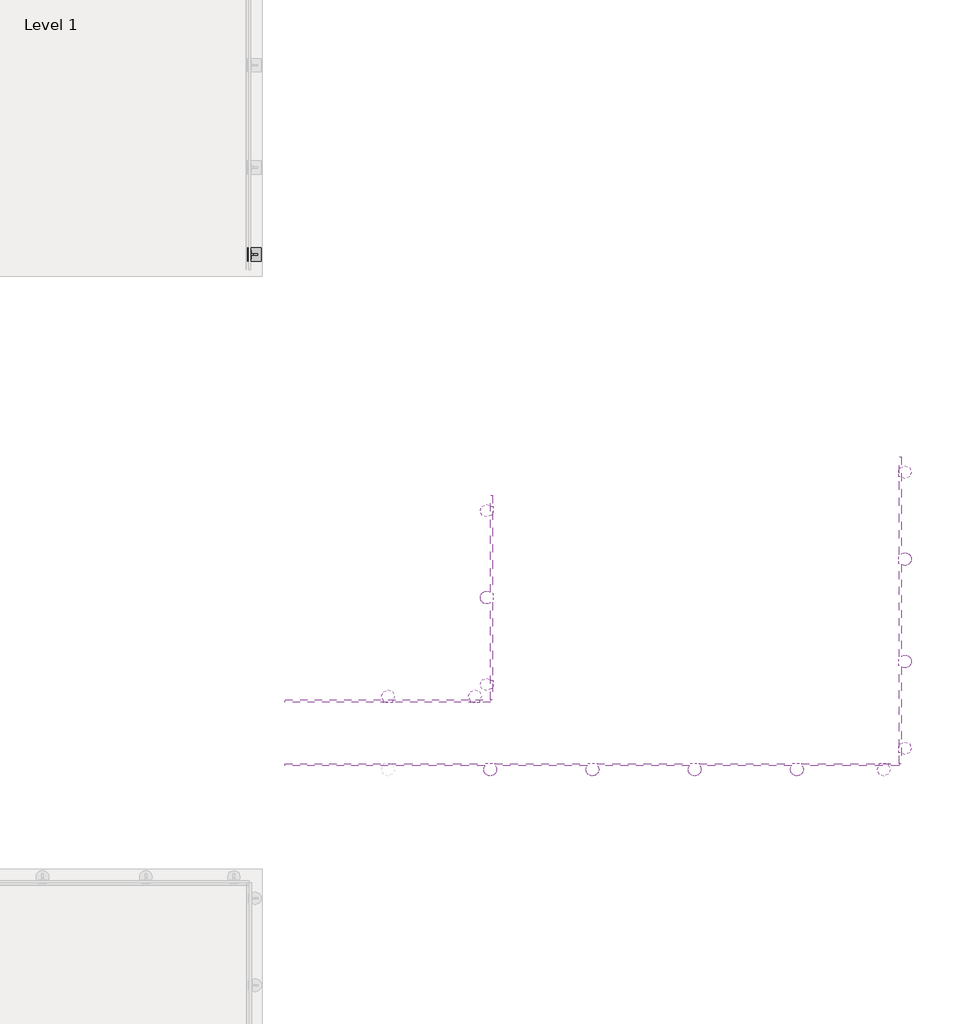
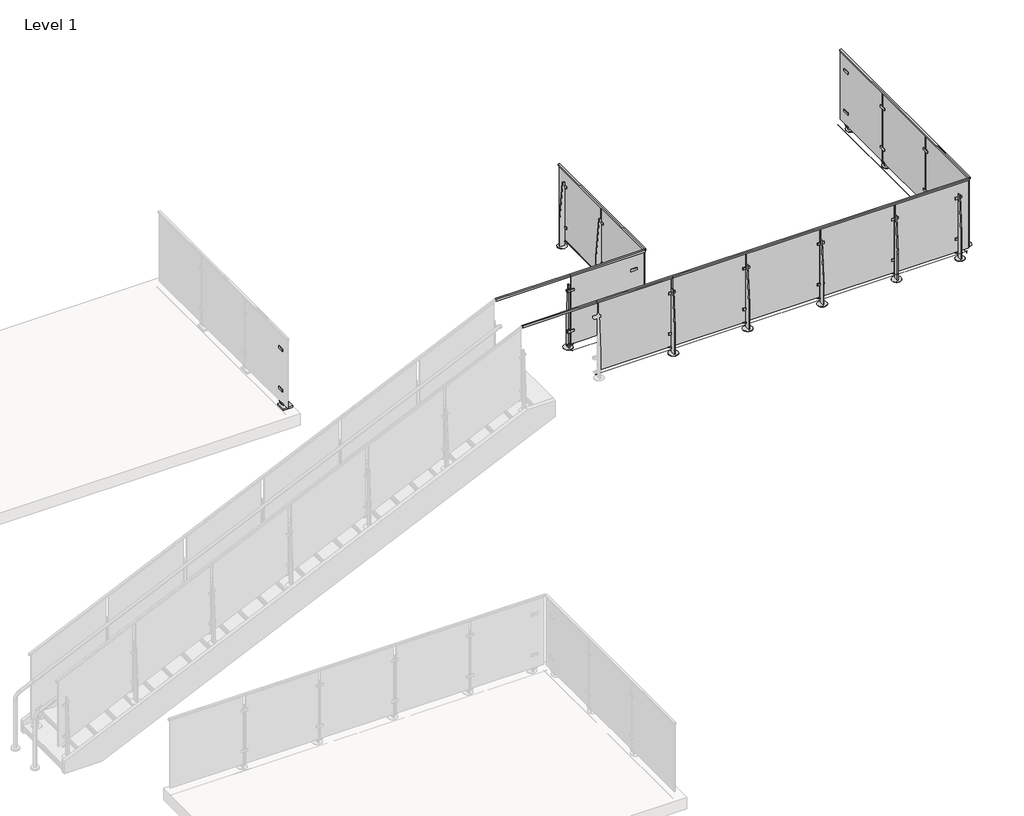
# One storey, part 4 of 37: 8 proxies, 4 railings.
"""IFC4 building model written with IfcOpenShell, lengths in millimetres."""

from ifc_helpers import new_model, si_unit, point, frame, frame_2d, origin, place, context, project, spatial, polyline, circle_curve, trimmed, segment, composite_curve, outline, extrude, faceted_brep, transform, mapped, element, save
from components import baluster_end_post_viva_solo_top_mount_e69dec62, baluster_end_post_viva_solo_top_mount_156321c6, baluster_end_post_viva_solo_top_mount_7846b30d, baluster_end_post_viva_solo_top_mount_67941749

model = new_model("IFC4")

# Units and contexts
model_context = context("Model", 3, world=origin())
ifc_project = project(units=[si_unit("LENGTHUNIT", "METRE", prefix="MILLI")], contexts=[model_context])

# Site, building, storey
site = spatial("IfcSite", under=ifc_project)
building = spatial("IfcBuilding", under=site)
storey = spatial("IfcBuildingStorey", under=building, Name="Level 1", Elevation=0.0)

# Proxies
placement = place(None, origin())
baluster_end_post_viva_solo_top_mount_shape = baluster_end_post_viva_solo_top_mount_e69dec62(model_context)
element("IfcBuildingElementProxy", 1, Name="Baluster-End-Post-VIVA-SOLO-Top Mount : CORED INTO CONCRETE_TOP MOUNT FOLD_STRAIGHT", ObjectType="Baluster-End-Post-VIVA-SOLO-Top Mount : CORED INTO CONCRETE_TOP MOUNT FOLD_STRAIGHT", at=placement, inside=storey, context=model_context, shape_type="MappedRepresentation", body=[
    mapped(baluster_end_post_viva_solo_top_mount_shape, transform((-5355.4809397, -4912.7528686, 3047.492), x_axis=(0.0, -1.0, 0.0), y_axis=(1.0, 0.0, 0.0), z_axis=(0.0, 0.0, 1.0))),
])
element("IfcBuildingElementProxy", 2, Name="Baluster-End-Post-VIVA-SOLO-Top Mount : CORED INTO CONCRETE_TOP MOUNT FOLD_STRAIGHT", ObjectType="Baluster-End-Post-VIVA-SOLO-Top Mount : CORED INTO CONCRETE_TOP MOUNT FOLD_STRAIGHT", at=placement, inside=storey, context=model_context, shape_type="MappedRepresentation", body=[
    mapped(baluster_end_post_viva_solo_top_mount_shape, transform((-1340.2310482, -5522.6703686, 3047.492), x_axis=(1.0, 0.0, 0.0), y_axis=(0.0, 1.0, 0.0), z_axis=(0.0, 0.0, 1.0))),
])
element("IfcBuildingElementProxy", 3, Name="Baluster-End-Post-VIVA-SOLO-Top Mount : CORED INTO CONCRETE_TOP MOUNT FOLD_STRAIGHT", ObjectType="Baluster-End-Post-VIVA-SOLO-Top Mount : CORED INTO CONCRETE_TOP MOUNT FOLD_STRAIGHT", at=placement, inside=storey, context=model_context, shape_type="MappedRepresentation", body=[
    mapped(baluster_end_post_viva_solo_top_mount_shape, transform((-1365.3135482, -2499.7528686, 3047.492), x_axis=(0.0, 1.0, 0.0), y_axis=(-1.0, 0.0, 0.0), z_axis=(0.0, 0.0, 1.0))),
])
baluster_end_post_viva_solo_top_mount_2_shape = baluster_end_post_viva_solo_top_mount_156321c6(model_context)
element("IfcBuildingElementProxy", 4, Name="Baluster-End-Post-VIVA-SOLO-Top Mount : CORED INTO CONCRETE_TOP MOUNT FOLD_STRAIGHT", ObjectType="Baluster-End-Post-VIVA-SOLO-Top Mount : CORED INTO CONCRETE_TOP MOUNT FOLD_STRAIGHT", at=placement, inside=storey, context=model_context, shape_type="MappedRepresentation", body=[
    mapped(baluster_end_post_viva_solo_top_mount_2_shape, transform((-6418.7884397, -4960.0603686, 3047.492), x_axis=(-1.0, 0.0, 0.0), y_axis=(0.0, -1.0, 0.0), z_axis=(0.0, 0.0, 1.0))),
])
baluster_end_post_viva_solo_top_mount_3_shape = baluster_end_post_viva_solo_top_mount_7846b30d(model_context)
element("IfcBuildingElementProxy", 5, Name="Baluster-End-Post-VIVA-SOLO-Top Mount : CORED INTO CONCRETE_TOP MOUNT FOLD_STRAIGHT", ObjectType="Baluster-End-Post-VIVA-SOLO-Top Mount : CORED INTO CONCRETE_TOP MOUNT FOLD_STRAIGHT", at=placement, inside=storey, context=model_context, shape_type="MappedRepresentation", body=[
    mapped(baluster_end_post_viva_solo_top_mount_3_shape, transform((-1365.3135482, -5547.7528686, 3047.492), x_axis=(0.0, 1.0, 0.0), y_axis=(-1.0, 0.0, 0.0), z_axis=(0.0, 0.0, 1.0))),
])
element("IfcBuildingElementProxy", 6, Name="Baluster-End-Post-VIVA-SOLO-Top Mount : CORED INTO CONCRETE_TOP MOUNT FOLD_STRAIGHT", ObjectType="Baluster-End-Post-VIVA-SOLO-Top Mount : CORED INTO CONCRETE_TOP MOUNT FOLD_STRAIGHT", at=placement, inside=storey, context=model_context, shape_type="MappedRepresentation", body=[
    mapped(baluster_end_post_viva_solo_top_mount_3_shape, transform((-5355.4809397, -2880.7528686, 3047.492), x_axis=(0.0, -1.0, 0.0), y_axis=(1.0, 0.0, 0.0), z_axis=(0.0, 0.0, 1.0))),
])
element("IfcBuildingElementProxy", 7, Name="Baluster-End-Post-VIVA-SOLO-Top Mount : CORED INTO CONCRETE_TOP MOUNT FOLD_STRAIGHT", ObjectType="Baluster-End-Post-VIVA-SOLO-Top Mount : CORED INTO CONCRETE_TOP MOUNT FOLD_STRAIGHT", at=placement, inside=storey, context=model_context, shape_type="MappedRepresentation", body=[
    mapped(baluster_end_post_viva_solo_top_mount_3_shape, transform((-5402.7884397, -4960.0603686, 3047.492), x_axis=(-1.0, 0.0, 0.0), y_axis=(0.0, -1.0, 0.0), z_axis=(0.0, 0.0, 1.0))),
])
baluster_end_post_viva_solo_top_mount_4_shape = baluster_end_post_viva_solo_top_mount_67941749(model_context)
element("IfcBuildingElementProxy", 8, Name="Baluster-End-Post-VIVA-SOLO-Top Mount : ANCHORED TO CONCRETE_TOP MOUNT FOLD_STRAIGHT", ObjectType="Baluster-End-Post-VIVA-SOLO-Top Mount : ANCHORED TO CONCRETE_TOP MOUNT FOLD_STRAIGHT", at=placement, inside=storey, context=model_context, shape_type="MappedRepresentation", body=[
    mapped(baluster_end_post_viva_solo_top_mount_4_shape, transform((-7831.634081, -641.4845865, -0.508), x_axis=(0.0, 1.0, 0.0), y_axis=(-1.0, 0.0, 0.0), z_axis=(0.0, 0.0, 1.0))),
])

# Railings
element("IfcRailing", 9, ObjectType="VIVA-SOLO-Glass-Core Mount-Straight", at=placement, inside=storey, context=model_context, shape_type="SolidModel", body=[
    extrude(outline(composite_curve([segment(trimmed(circle_curve(frame_2d((-5522.6703686, 3047.746)), 0.254), [point((-5522.9243686, 3047.746))], [point((-5522.4163686, 3047.746))], False, "CARTESIAN"), True, "CONTINUOUS"), segment(trimmed(circle_curve(frame_2d((-5522.6703686, 3047.746)), 0.254), [point((-5522.4163686, 3047.746))], [point((-5522.9243686, 3047.746))], False, "CARTESIAN"), True, "CONTINUOUS")], self_intersect=False)), frame((-6420.2310482, 0.0, 0.0), z_axis=(1.0, 0.0, 0.0), x_axis=(0.0, 1.0, 0.0)), (0.0, 0.0, 1.0), 5080.0),
    extrude(outline(composite_curve([segment(trimmed(circle_curve(frame_2d((-5522.6703686, 3047.746)), 0.254), [point((-5522.9243686, 3047.746))], [point((-5522.4163686, 3047.746))], False, "CARTESIAN"), True, "CONTINUOUS"), segment(trimmed(circle_curve(frame_2d((-5522.6703686, 3047.746)), 0.254), [point((-5522.4163686, 3047.746))], [point((-5522.9243686, 3047.746))], False, "CARTESIAN"), True, "CONTINUOUS")], self_intersect=False)), frame((-6420.2310482, 0.0, 0.0), z_axis=(1.0, 0.0, 0.0), x_axis=(0.0, 1.0, 0.0)), (0.0, 0.0, 1.0), 5080.0),
    faceted_brep([(-1340.2310482, -5569.9778686, 4127.5), (-1340.2310482, -5569.9778686, 4102.1), (-1340.2310482, -5565.2153686, 4102.1), (-1340.2310482, -5565.2153686, 4122.7375), (-1340.2310482, -5552.5153686, 4122.7375), (-1340.2310482, -5552.5153686, 4102.1), (-1340.2310482, -5547.7528686, 4102.1), (-1340.2310482, -5547.7528686, 4127.5), (-6420.2310482, -5547.7528686, 4127.5), (-6420.2310482, -5569.9778686, 4127.5), (-6420.2310482, -5547.7528686, 4102.1), (-6420.2310482, -5552.5153686, 4102.1), (-6420.2310482, -5552.5153686, 4122.7375), (-6420.2310482, -5565.2153686, 4122.7375), (-6420.2310482, -5565.2153686, 4102.1), (-6420.2310482, -5569.9778686, 4102.1), (-7440.053319, -5569.9778686, 4127.5), (-7440.053319, -5547.7528686, 4127.5), (-7440.053319, -5547.7528686, 4102.1), (-7440.053319, -5552.5153686, 4102.1), (-7440.053319, -5552.5153686, 4122.7375), (-7440.053319, -5565.2153686, 4122.7375), (-7440.053319, -5565.2153686, 4102.1), (-7440.053319, -5569.9778686, 4102.1)], [[[0, 1, 2, 3, 4, 5, 6, 7]], [[8, 9, 0, 7]], [[10, 8, 7, 6]], [[11, 10, 6, 5]], [[12, 11, 5, 4]], [[13, 12, 4, 3]], [[14, 13, 3, 2]], [[15, 14, 2, 1]], [[9, 15, 1, 0]], [[16, 17, 18, 19, 20, 21, 22, 23]], [[17, 16, 9, 8]], [[18, 17, 8, 10]], [[19, 18, 10, 11]], [[20, 19, 11, 12]], [[21, 20, 12, 13]], [[22, 21, 13, 14]], [[23, 22, 14, 15]], [[16, 23, 15, 9]]]),
    extrude(outline(polyline([(-2343.1480016, -5552.5153686), (-1352.5480016, -5552.5153686), (-1352.5480016, -5565.2153686), (-2343.1480016, -5565.2153686), (-2343.1480016, -5552.5153686)])), frame((0.0, 0.0, 3124.2), z_axis=(0.0, 0.0, 1.0), x_axis=(1.0, 0.0, 0.0)), (0.0, 0.0, 1.0), 998.474),
    extrude(outline(polyline([(-5574.7403686, 3962.4), (-5574.7403686, 3048.0), (-5638.2403686, 3048.0), (-5638.2403686, 3429.0), (-5600.1403686, 3962.4), (-5574.7403686, 3962.4)])), frame((-2362.5810482, 0.0, 0.0), z_axis=(1.0, 0.0, 0.0), x_axis=(0.0, 1.0, 0.0)), (0.0, 0.0, 1.0), 12.7),
    extrude(outline(composite_curve([segment(trimmed(circle_curve(frame_2d((-2356.2310482, -5606.4903686)), 63.5), [point((-2356.2310482, -5669.9903686))], [point((-2356.2310482, -5542.9903686))], False, "CARTESIAN"), True, "CONTINUOUS"), segment(trimmed(circle_curve(frame_2d((-2356.2310482, -5606.4903686)), 63.5), [point((-2356.2310482, -5542.9903686))], [point((-2356.2310482, -5669.9903686))], False, "CARTESIAN"), True, "CONTINUOUS")], self_intersect=False)), frame((0.0, 0.0, 3048.0), z_axis=(0.0, 0.0, 1.0), x_axis=(1.0, 0.0, 0.0)), (0.0, 0.0, 1.0), 3.175),
    extrude(outline(polyline([(-2400.6810482, -5565.2153686), (-2311.7810482, -5565.2153686), (-2311.7810482, -5574.7403686), (-2400.6810482, -5574.7403686), (-2400.6810482, -5565.2153686)])), frame((0.0, 0.0, 3299.9910694), z_axis=(0.0, 0.0, 1.0), x_axis=(1.0, 0.0, 0.0)), (0.0, 0.0, 1.0), 31.75),
    extrude(outline(polyline([(-2400.6810482, -5565.2153686), (-2311.7810482, -5565.2153686), (-2311.7810482, -5574.7403686), (-2400.6810482, -5574.7403686), (-2400.6810482, -5565.2153686)])), frame((0.0, 0.0, 3886.2992187), z_axis=(0.0, 0.0, 1.0), x_axis=(1.0, 0.0, 0.0)), (0.0, 0.0, 1.0), 31.75),
    extrude(outline(polyline([(-2400.6810482, -5542.9903686), (-2311.7810482, -5542.9903686), (-2311.7810482, -5552.5153686), (-2400.6810482, -5552.5153686), (-2400.6810482, -5542.9903686)])), frame((0.0, 0.0, 3299.9910694), z_axis=(0.0, 0.0, 1.0), x_axis=(1.0, 0.0, 0.0)), (0.0, 0.0, 1.0), 31.75),
    extrude(outline(polyline([(-2400.6810482, -5542.9903686), (-2311.7810482, -5542.9903686), (-2311.7810482, -5552.5153686), (-2400.6810482, -5552.5153686), (-2400.6810482, -5542.9903686)])), frame((0.0, 0.0, 3886.2992187), z_axis=(0.0, 0.0, 1.0), x_axis=(1.0, 0.0, 0.0)), (0.0, 0.0, 1.0), 31.75),
    extrude(outline(polyline([(3124.2, -2311.7810482), (3124.2, -2400.6810482), (3117.85, -2400.6810482), (3095.9353513, -2356.2310482), (3117.85, -2311.7810482), (3124.2, -2311.7810482)])), frame((0.0, -5565.2153686, 0.0), z_axis=(0.0, 1.0, 0.0), x_axis=(0.0, 0.0, 1.0)), (0.0, 0.0, 1.0), 12.7),
    extrude(outline(composite_curve([segment(trimmed(circle_curve(frame_2d((3315.8660694, -2356.2310482)), 6.35), [point((3315.8660694, -2349.8810482))], [point((3315.8660694, -2362.5810482))], False, "CARTESIAN"), True, "CONTINUOUS"), segment(trimmed(circle_curve(frame_2d((3315.8660694, -2356.2310482)), 6.35), [point((3315.8660694, -2362.5810482))], [point((3315.8660694, -2349.8810482))], False, "CARTESIAN"), True, "CONTINUOUS")], self_intersect=False)), frame((0.0, -5565.2153686, 0.0), z_axis=(0.0, 1.0, 0.0), x_axis=(0.0, 0.0, 1.0)), (0.0, 0.0, 1.0), 12.7),
    extrude(outline(composite_curve([segment(trimmed(circle_curve(frame_2d((3902.1742187, -2356.2310482)), 6.35), [point((3902.1742187, -2349.8810482))], [point((3902.1742187, -2362.5810482))], False, "CARTESIAN"), True, "CONTINUOUS"), segment(trimmed(circle_curve(frame_2d((3902.1742187, -2356.2310482)), 6.35), [point((3902.1742187, -2362.5810482))], [point((3902.1742187, -2349.8810482))], False, "CARTESIAN"), True, "CONTINUOUS")], self_intersect=False)), frame((0.0, -5565.2153686, 0.0), z_axis=(0.0, 1.0, 0.0), x_axis=(0.0, 0.0, 1.0)), (0.0, 0.0, 1.0), 12.7),
    extrude(outline(composite_curve([segment(trimmed(circle_curve(frame_2d((3108.325, -2356.2310482)), 11.1125), [point((3108.325, -2345.1185482))], [point((3108.325, -2367.3435482))], False, "CARTESIAN"), True, "CONTINUOUS"), segment(trimmed(circle_curve(frame_2d((3108.325, -2356.2310482)), 11.1125), [point((3108.325, -2367.3435482))], [point((3108.325, -2345.1185482))], False, "CARTESIAN"), True, "CONTINUOUS")], self_intersect=False)), frame((0.0, -5574.7403686, 0.0), z_axis=(0.0, 1.0, 0.0), x_axis=(0.0, 0.0, 1.0)), (0.0, 0.0, 1.0), 25.4),
    extrude(outline(polyline([(-3359.1480016, -5552.5153686), (-2368.5480016, -5552.5153686), (-2368.5480016, -5565.2153686), (-3359.1480016, -5565.2153686), (-3359.1480016, -5552.5153686)])), frame((0.0, 0.0, 3124.2), z_axis=(0.0, 0.0, 1.0), x_axis=(1.0, 0.0, 0.0)), (0.0, 0.0, 1.0), 998.474),
    extrude(outline(polyline([(-5574.7403686, 3962.4), (-5574.7403686, 3048.0), (-5638.2403686, 3048.0), (-5638.2403686, 3429.0), (-5600.1403686, 3962.4), (-5574.7403686, 3962.4)])), frame((-3378.5810482, 0.0, 0.0), z_axis=(1.0, 0.0, 0.0), x_axis=(0.0, 1.0, 0.0)), (0.0, 0.0, 1.0), 12.7),
    extrude(outline(composite_curve([segment(trimmed(circle_curve(frame_2d((-3372.2310482, -5606.4903686)), 63.5), [point((-3372.2310482, -5669.9903686))], [point((-3372.2310482, -5542.9903686))], False, "CARTESIAN"), True, "CONTINUOUS"), segment(trimmed(circle_curve(frame_2d((-3372.2310482, -5606.4903686)), 63.5), [point((-3372.2310482, -5542.9903686))], [point((-3372.2310482, -5669.9903686))], False, "CARTESIAN"), True, "CONTINUOUS")], self_intersect=False)), frame((0.0, 0.0, 3048.0), z_axis=(0.0, 0.0, 1.0), x_axis=(1.0, 0.0, 0.0)), (0.0, 0.0, 1.0), 3.175),
    extrude(outline(polyline([(-3416.6810482, -5565.2153686), (-3327.7810482, -5565.2153686), (-3327.7810482, -5574.7403686), (-3416.6810482, -5574.7403686), (-3416.6810482, -5565.2153686)])), frame((0.0, 0.0, 3299.9910694), z_axis=(0.0, 0.0, 1.0), x_axis=(1.0, 0.0, 0.0)), (0.0, 0.0, 1.0), 31.75),
    extrude(outline(polyline([(-3416.6810482, -5565.2153686), (-3327.7810482, -5565.2153686), (-3327.7810482, -5574.7403686), (-3416.6810482, -5574.7403686), (-3416.6810482, -5565.2153686)])), frame((0.0, 0.0, 3886.2992187), z_axis=(0.0, 0.0, 1.0), x_axis=(1.0, 0.0, 0.0)), (0.0, 0.0, 1.0), 31.75),
    extrude(outline(polyline([(-3416.6810482, -5542.9903686), (-3327.7810482, -5542.9903686), (-3327.7810482, -5552.5153686), (-3416.6810482, -5552.5153686), (-3416.6810482, -5542.9903686)])), frame((0.0, 0.0, 3299.9910694), z_axis=(0.0, 0.0, 1.0), x_axis=(1.0, 0.0, 0.0)), (0.0, 0.0, 1.0), 31.75),
    extrude(outline(polyline([(-3416.6810482, -5542.9903686), (-3327.7810482, -5542.9903686), (-3327.7810482, -5552.5153686), (-3416.6810482, -5552.5153686), (-3416.6810482, -5542.9903686)])), frame((0.0, 0.0, 3886.2992187), z_axis=(0.0, 0.0, 1.0), x_axis=(1.0, 0.0, 0.0)), (0.0, 0.0, 1.0), 31.75),
    extrude(outline(polyline([(3124.2, -3327.7810482), (3124.2, -3416.6810482), (3117.85, -3416.6810482), (3095.9353513, -3372.2310482), (3117.85, -3327.7810482), (3124.2, -3327.7810482)])), frame((0.0, -5565.2153686, 0.0), z_axis=(0.0, 1.0, 0.0), x_axis=(0.0, 0.0, 1.0)), (0.0, 0.0, 1.0), 12.7),
    extrude(outline(composite_curve([segment(trimmed(circle_curve(frame_2d((3315.8660694, -3372.2310482)), 6.35), [point((3315.8660694, -3365.8810482))], [point((3315.8660694, -3378.5810482))], False, "CARTESIAN"), True, "CONTINUOUS"), segment(trimmed(circle_curve(frame_2d((3315.8660694, -3372.2310482)), 6.35), [point((3315.8660694, -3378.5810482))], [point((3315.8660694, -3365.8810482))], False, "CARTESIAN"), True, "CONTINUOUS")], self_intersect=False)), frame((0.0, -5565.2153686, 0.0), z_axis=(0.0, 1.0, 0.0), x_axis=(0.0, 0.0, 1.0)), (0.0, 0.0, 1.0), 12.7),
    extrude(outline(composite_curve([segment(trimmed(circle_curve(frame_2d((3902.1742187, -3372.2310482)), 6.35), [point((3902.1742187, -3365.8810482))], [point((3902.1742187, -3378.5810482))], False, "CARTESIAN"), True, "CONTINUOUS"), segment(trimmed(circle_curve(frame_2d((3902.1742187, -3372.2310482)), 6.35), [point((3902.1742187, -3378.5810482))], [point((3902.1742187, -3365.8810482))], False, "CARTESIAN"), True, "CONTINUOUS")], self_intersect=False)), frame((0.0, -5565.2153686, 0.0), z_axis=(0.0, 1.0, 0.0), x_axis=(0.0, 0.0, 1.0)), (0.0, 0.0, 1.0), 12.7),
    extrude(outline(composite_curve([segment(trimmed(circle_curve(frame_2d((3108.325, -3372.2310482)), 11.1125), [point((3108.325, -3361.1185482))], [point((3108.325, -3383.3435482))], False, "CARTESIAN"), True, "CONTINUOUS"), segment(trimmed(circle_curve(frame_2d((3108.325, -3372.2310482)), 11.1125), [point((3108.325, -3383.3435482))], [point((3108.325, -3361.1185482))], False, "CARTESIAN"), True, "CONTINUOUS")], self_intersect=False)), frame((0.0, -5574.7403686, 0.0), z_axis=(0.0, 1.0, 0.0), x_axis=(0.0, 0.0, 1.0)), (0.0, 0.0, 1.0), 25.4),
    extrude(outline(polyline([(-4375.1480016, -5552.5153686), (-3384.5480016, -5552.5153686), (-3384.5480016, -5565.2153686), (-4375.1480016, -5565.2153686), (-4375.1480016, -5552.5153686)])), frame((0.0, 0.0, 3124.2), z_axis=(0.0, 0.0, 1.0), x_axis=(1.0, 0.0, 0.0)), (0.0, 0.0, 1.0), 998.474),
    extrude(outline(polyline([(-5574.7403686, 3962.4), (-5574.7403686, 3048.0), (-5638.2403686, 3048.0), (-5638.2403686, 3429.0), (-5600.1403686, 3962.4), (-5574.7403686, 3962.4)])), frame((-4394.5810482, 0.0, 0.0), z_axis=(1.0, 0.0, 0.0), x_axis=(0.0, 1.0, 0.0)), (0.0, 0.0, 1.0), 12.7),
    extrude(outline(composite_curve([segment(trimmed(circle_curve(frame_2d((-4388.2310482, -5606.4903686)), 63.5), [point((-4388.2310482, -5669.9903686))], [point((-4388.2310482, -5542.9903686))], False, "CARTESIAN"), True, "CONTINUOUS"), segment(trimmed(circle_curve(frame_2d((-4388.2310482, -5606.4903686)), 63.5), [point((-4388.2310482, -5542.9903686))], [point((-4388.2310482, -5669.9903686))], False, "CARTESIAN"), True, "CONTINUOUS")], self_intersect=False)), frame((0.0, 0.0, 3048.0), z_axis=(0.0, 0.0, 1.0), x_axis=(1.0, 0.0, 0.0)), (0.0, 0.0, 1.0), 3.175),
    extrude(outline(polyline([(-4432.6810482, -5565.2153686), (-4343.7810482, -5565.2153686), (-4343.7810482, -5574.7403686), (-4432.6810482, -5574.7403686), (-4432.6810482, -5565.2153686)])), frame((0.0, 0.0, 3299.9910694), z_axis=(0.0, 0.0, 1.0), x_axis=(1.0, 0.0, 0.0)), (0.0, 0.0, 1.0), 31.75),
    extrude(outline(polyline([(-4432.6810482, -5565.2153686), (-4343.7810482, -5565.2153686), (-4343.7810482, -5574.7403686), (-4432.6810482, -5574.7403686), (-4432.6810482, -5565.2153686)])), frame((0.0, 0.0, 3886.2992187), z_axis=(0.0, 0.0, 1.0), x_axis=(1.0, 0.0, 0.0)), (0.0, 0.0, 1.0), 31.75),
    extrude(outline(polyline([(-4432.6810482, -5542.9903686), (-4343.7810482, -5542.9903686), (-4343.7810482, -5552.5153686), (-4432.6810482, -5552.5153686), (-4432.6810482, -5542.9903686)])), frame((0.0, 0.0, 3299.9910694), z_axis=(0.0, 0.0, 1.0), x_axis=(1.0, 0.0, 0.0)), (0.0, 0.0, 1.0), 31.75),
    extrude(outline(polyline([(-4432.6810482, -5542.9903686), (-4343.7810482, -5542.9903686), (-4343.7810482, -5552.5153686), (-4432.6810482, -5552.5153686), (-4432.6810482, -5542.9903686)])), frame((0.0, 0.0, 3886.2992187), z_axis=(0.0, 0.0, 1.0), x_axis=(1.0, 0.0, 0.0)), (0.0, 0.0, 1.0), 31.75),
    extrude(outline(polyline([(3124.2, -4343.7810482), (3124.2, -4432.6810482), (3117.85, -4432.6810482), (3095.9353513, -4388.2310482), (3117.85, -4343.7810482), (3124.2, -4343.7810482)])), frame((0.0, -5565.2153686, 0.0), z_axis=(0.0, 1.0, 0.0), x_axis=(0.0, 0.0, 1.0)), (0.0, 0.0, 1.0), 12.7),
    extrude(outline(composite_curve([segment(trimmed(circle_curve(frame_2d((3315.8660694, -4388.2310482)), 6.35), [point((3315.8660694, -4381.8810482))], [point((3315.8660694, -4394.5810482))], False, "CARTESIAN"), True, "CONTINUOUS"), segment(trimmed(circle_curve(frame_2d((3315.8660694, -4388.2310482)), 6.35), [point((3315.8660694, -4394.5810482))], [point((3315.8660694, -4381.8810482))], False, "CARTESIAN"), True, "CONTINUOUS")], self_intersect=False)), frame((0.0, -5565.2153686, 0.0), z_axis=(0.0, 1.0, 0.0), x_axis=(0.0, 0.0, 1.0)), (0.0, 0.0, 1.0), 12.7),
    extrude(outline(composite_curve([segment(trimmed(circle_curve(frame_2d((3902.1742187, -4388.2310482)), 6.35), [point((3902.1742187, -4381.8810482))], [point((3902.1742187, -4394.5810482))], False, "CARTESIAN"), True, "CONTINUOUS"), segment(trimmed(circle_curve(frame_2d((3902.1742187, -4388.2310482)), 6.35), [point((3902.1742187, -4394.5810482))], [point((3902.1742187, -4381.8810482))], False, "CARTESIAN"), True, "CONTINUOUS")], self_intersect=False)), frame((0.0, -5565.2153686, 0.0), z_axis=(0.0, 1.0, 0.0), x_axis=(0.0, 0.0, 1.0)), (0.0, 0.0, 1.0), 12.7),
    extrude(outline(composite_curve([segment(trimmed(circle_curve(frame_2d((3108.325, -4388.2310482)), 11.1125), [point((3108.325, -4377.1185482))], [point((3108.325, -4399.3435482))], False, "CARTESIAN"), True, "CONTINUOUS"), segment(trimmed(circle_curve(frame_2d((3108.325, -4388.2310482)), 11.1125), [point((3108.325, -4399.3435482))], [point((3108.325, -4377.1185482))], False, "CARTESIAN"), True, "CONTINUOUS")], self_intersect=False)), frame((0.0, -5574.7403686, 0.0), z_axis=(0.0, 1.0, 0.0), x_axis=(0.0, 0.0, 1.0)), (0.0, 0.0, 1.0), 25.4),
    extrude(outline(polyline([(-5391.1480016, -5552.5153686), (-4400.5480016, -5552.5153686), (-4400.5480016, -5565.2153686), (-5391.1480016, -5565.2153686), (-5391.1480016, -5552.5153686)])), frame((0.0, 0.0, 3124.2), z_axis=(0.0, 0.0, 1.0), x_axis=(1.0, 0.0, 0.0)), (0.0, 0.0, 1.0), 998.474),
    extrude(outline(polyline([(-5574.7403686, 3962.4), (-5574.7403686, 3048.0), (-5638.2403686, 3048.0), (-5638.2403686, 3429.0), (-5600.1403686, 3962.4), (-5574.7403686, 3962.4)])), frame((-5410.5810482, 0.0, 0.0), z_axis=(1.0, 0.0, 0.0), x_axis=(0.0, 1.0, 0.0)), (0.0, 0.0, 1.0), 12.7),
    extrude(outline(composite_curve([segment(trimmed(circle_curve(frame_2d((-5404.2310482, -5606.4903686)), 63.5), [point((-5404.2310482, -5669.9903686))], [point((-5404.2310482, -5542.9903686))], False, "CARTESIAN"), True, "CONTINUOUS"), segment(trimmed(circle_curve(frame_2d((-5404.2310482, -5606.4903686)), 63.5), [point((-5404.2310482, -5542.9903686))], [point((-5404.2310482, -5669.9903686))], False, "CARTESIAN"), True, "CONTINUOUS")], self_intersect=False)), frame((0.0, 0.0, 3048.0), z_axis=(0.0, 0.0, 1.0), x_axis=(1.0, 0.0, 0.0)), (0.0, 0.0, 1.0), 3.175),
    extrude(outline(polyline([(-5448.6810482, -5565.2153686), (-5359.7810482, -5565.2153686), (-5359.7810482, -5574.7403686), (-5448.6810482, -5574.7403686), (-5448.6810482, -5565.2153686)])), frame((0.0, 0.0, 3299.9910694), z_axis=(0.0, 0.0, 1.0), x_axis=(1.0, 0.0, 0.0)), (0.0, 0.0, 1.0), 31.75),
    extrude(outline(polyline([(-5448.6810482, -5565.2153686), (-5359.7810482, -5565.2153686), (-5359.7810482, -5574.7403686), (-5448.6810482, -5574.7403686), (-5448.6810482, -5565.2153686)])), frame((0.0, 0.0, 3886.2992187), z_axis=(0.0, 0.0, 1.0), x_axis=(1.0, 0.0, 0.0)), (0.0, 0.0, 1.0), 31.75),
    extrude(outline(polyline([(-5448.6810482, -5542.9903686), (-5359.7810482, -5542.9903686), (-5359.7810482, -5552.5153686), (-5448.6810482, -5552.5153686), (-5448.6810482, -5542.9903686)])), frame((0.0, 0.0, 3299.9910694), z_axis=(0.0, 0.0, 1.0), x_axis=(1.0, 0.0, 0.0)), (0.0, 0.0, 1.0), 31.75),
    extrude(outline(polyline([(-5448.6810482, -5542.9903686), (-5359.7810482, -5542.9903686), (-5359.7810482, -5552.5153686), (-5448.6810482, -5552.5153686), (-5448.6810482, -5542.9903686)])), frame((0.0, 0.0, 3886.2992187), z_axis=(0.0, 0.0, 1.0), x_axis=(1.0, 0.0, 0.0)), (0.0, 0.0, 1.0), 31.75),
    extrude(outline(polyline([(3124.2, -5359.7810482), (3124.2, -5448.6810482), (3117.85, -5448.6810482), (3095.9353513, -5404.2310482), (3117.85, -5359.7810482), (3124.2, -5359.7810482)])), frame((0.0, -5565.2153686, 0.0), z_axis=(0.0, 1.0, 0.0), x_axis=(0.0, 0.0, 1.0)), (0.0, 0.0, 1.0), 12.7),
    extrude(outline(composite_curve([segment(trimmed(circle_curve(frame_2d((3315.8660694, -5404.2310482)), 6.35), [point((3315.8660694, -5397.8810482))], [point((3315.8660694, -5410.5810482))], False, "CARTESIAN"), True, "CONTINUOUS"), segment(trimmed(circle_curve(frame_2d((3315.8660694, -5404.2310482)), 6.35), [point((3315.8660694, -5410.5810482))], [point((3315.8660694, -5397.8810482))], False, "CARTESIAN"), True, "CONTINUOUS")], self_intersect=False)), frame((0.0, -5565.2153686, 0.0), z_axis=(0.0, 1.0, 0.0), x_axis=(0.0, 0.0, 1.0)), (0.0, 0.0, 1.0), 12.7),
    extrude(outline(composite_curve([segment(trimmed(circle_curve(frame_2d((3902.1742187, -5404.2310482)), 6.35), [point((3902.1742187, -5397.8810482))], [point((3902.1742187, -5410.5810482))], False, "CARTESIAN"), True, "CONTINUOUS"), segment(trimmed(circle_curve(frame_2d((3902.1742187, -5404.2310482)), 6.35), [point((3902.1742187, -5410.5810482))], [point((3902.1742187, -5397.8810482))], False, "CARTESIAN"), True, "CONTINUOUS")], self_intersect=False)), frame((0.0, -5565.2153686, 0.0), z_axis=(0.0, 1.0, 0.0), x_axis=(0.0, 0.0, 1.0)), (0.0, 0.0, 1.0), 12.7),
    extrude(outline(composite_curve([segment(trimmed(circle_curve(frame_2d((3108.325, -5404.2310482)), 11.1125), [point((3108.325, -5393.1185482))], [point((3108.325, -5415.3435482))], False, "CARTESIAN"), True, "CONTINUOUS"), segment(trimmed(circle_curve(frame_2d((3108.325, -5404.2310482)), 11.1125), [point((3108.325, -5415.3435482))], [point((3108.325, -5393.1185482))], False, "CARTESIAN"), True, "CONTINUOUS")], self_intersect=False)), frame((0.0, -5574.7403686, 0.0), z_axis=(0.0, 1.0, 0.0), x_axis=(0.0, 0.0, 1.0)), (0.0, 0.0, 1.0), 25.4),
    extrude(outline(polyline([(-6407.1480016, -5552.5153686), (-5416.5480016, -5552.5153686), (-5416.5480016, -5565.2153686), (-6407.1480016, -5565.2153686), (-6407.1480016, -5552.5153686)])), frame((0.0, 0.0, 3124.2), z_axis=(0.0, 0.0, 1.0), x_axis=(1.0, 0.0, 0.0)), (0.0, 0.0, 1.0), 998.474),
])
element("IfcRailing", 10, ObjectType="VIVA-SOLO-Glass-Core Mount-Straight", at=placement, inside=storey, context=model_context, shape_type="SweptSolid", body=[
    extrude(outline(composite_curve([segment(trimmed(circle_curve(frame_2d((3047.746, -1365.3135482)), 0.254), [point((3047.746, -1365.0595482))], [point((3047.746, -1365.5675482))], False, "CARTESIAN"), True, "CONTINUOUS"), segment(trimmed(circle_curve(frame_2d((3047.746, -1365.3135482)), 0.254), [point((3047.746, -1365.5675482))], [point((3047.746, -1365.0595482))], False, "CARTESIAN"), True, "CONTINUOUS")], self_intersect=False)), frame((0.0, -5547.7528686, 0.0), z_axis=(0.0, 1.0, 0.0), x_axis=(0.0, 0.0, 1.0)), (0.0, 0.0, 1.0), 3048.0),
    extrude(outline(composite_curve([segment(trimmed(circle_curve(frame_2d((3047.746, -1365.3135482)), 0.254), [point((3047.746, -1365.0595482))], [point((3047.746, -1365.5675482))], False, "CARTESIAN"), True, "CONTINUOUS"), segment(trimmed(circle_curve(frame_2d((3047.746, -1365.3135482)), 0.254), [point((3047.746, -1365.5675482))], [point((3047.746, -1365.0595482))], False, "CARTESIAN"), True, "CONTINUOUS")], self_intersect=False)), frame((0.0, -5547.7528686, 0.0), z_axis=(0.0, 1.0, 0.0), x_axis=(0.0, 0.0, 1.0)), (0.0, 0.0, 1.0), 3048.0),
    extrude(outline(polyline([(4127.5, -1318.0060482), (4127.5, -1340.2310482), (4102.1, -1340.2310482), (4102.1, -1335.4685482), (4122.7375, -1335.4685482), (4122.7375, -1322.7685482), (4102.1, -1322.7685482), (4102.1, -1318.0060482), (4127.5, -1318.0060482)])), frame((0.0, -5547.7528686, 0.0), z_axis=(0.0, 1.0, 0.0), x_axis=(0.0, 0.0, 1.0)), (0.0, 0.0, 1.0), 3048.0),
    extrude(outline(polyline([(-1335.4685482, -3502.669822), (-1335.4685482, -2512.069822), (-1322.7685482, -2512.069822), (-1322.7685482, -3502.669822), (-1335.4685482, -3502.669822)])), frame((0.0, 0.0, 3124.2), z_axis=(0.0, 0.0, 1.0), x_axis=(1.0, 0.0, 0.0)), (0.0, 0.0, 1.0), 998.474),
    extrude(outline(polyline([(3962.4, -1313.2435482), (3048.0, -1313.2435482), (3048.0, -1249.7435482), (3429.0, -1249.7435482), (3962.4, -1287.8435482), (3962.4, -1313.2435482)])), frame((0.0, -3522.1028686, 0.0), z_axis=(0.0, 1.0, 0.0), x_axis=(0.0, 0.0, 1.0)), (0.0, 0.0, 1.0), 12.7),
    extrude(outline(composite_curve([segment(trimmed(circle_curve(frame_2d((-1281.4935482, -3515.7528686)), 63.5), [point((-1217.9935482, -3515.7528686))], [point((-1344.9935482, -3515.7528686))], False, "CARTESIAN"), True, "CONTINUOUS"), segment(trimmed(circle_curve(frame_2d((-1281.4935482, -3515.7528686)), 63.5), [point((-1344.9935482, -3515.7528686))], [point((-1217.9935482, -3515.7528686))], False, "CARTESIAN"), True, "CONTINUOUS")], self_intersect=False)), frame((0.0, 0.0, 3048.0), z_axis=(0.0, 0.0, 1.0), x_axis=(1.0, 0.0, 0.0)), (0.0, 0.0, 1.0), 3.175),
    extrude(outline(polyline([(-1322.7685482, -3560.2028686), (-1322.7685482, -3471.3028686), (-1313.2435482, -3471.3028686), (-1313.2435482, -3560.2028686), (-1322.7685482, -3560.2028686)])), frame((0.0, 0.0, 3299.9910694), z_axis=(0.0, 0.0, 1.0), x_axis=(1.0, 0.0, 0.0)), (0.0, 0.0, 1.0), 31.75),
    extrude(outline(polyline([(-1322.7685482, -3560.2028686), (-1322.7685482, -3471.3028686), (-1313.2435482, -3471.3028686), (-1313.2435482, -3560.2028686), (-1322.7685482, -3560.2028686)])), frame((0.0, 0.0, 3886.2992187), z_axis=(0.0, 0.0, 1.0), x_axis=(1.0, 0.0, 0.0)), (0.0, 0.0, 1.0), 31.75),
    extrude(outline(polyline([(-1344.9935482, -3560.2028686), (-1344.9935482, -3471.3028686), (-1335.4685482, -3471.3028686), (-1335.4685482, -3560.2028686), (-1344.9935482, -3560.2028686)])), frame((0.0, 0.0, 3299.9910694), z_axis=(0.0, 0.0, 1.0), x_axis=(1.0, 0.0, 0.0)), (0.0, 0.0, 1.0), 31.75),
    extrude(outline(polyline([(-1344.9935482, -3560.2028686), (-1344.9935482, -3471.3028686), (-1335.4685482, -3471.3028686), (-1335.4685482, -3560.2028686), (-1344.9935482, -3560.2028686)])), frame((0.0, 0.0, 3886.2992187), z_axis=(0.0, 0.0, 1.0), x_axis=(1.0, 0.0, 0.0)), (0.0, 0.0, 1.0), 31.75),
    extrude(outline(polyline([(-3471.3028686, 3124.2), (-3471.3028686, 3117.85), (-3515.7528686, 3095.9353513), (-3560.2028686, 3117.85), (-3560.2028686, 3124.2), (-3471.3028686, 3124.2)])), frame((-1335.4685482, 0.0, 0.0), z_axis=(1.0, 0.0, 0.0), x_axis=(0.0, 1.0, 0.0)), (0.0, 0.0, 1.0), 12.7),
    extrude(outline(composite_curve([segment(trimmed(circle_curve(frame_2d((-3515.7528686, 3315.8660694)), 6.35), [point((-3509.4028686, 3315.8660694))], [point((-3522.1028686, 3315.8660694))], False, "CARTESIAN"), True, "CONTINUOUS"), segment(trimmed(circle_curve(frame_2d((-3515.7528686, 3315.8660694)), 6.35), [point((-3522.1028686, 3315.8660694))], [point((-3509.4028686, 3315.8660694))], False, "CARTESIAN"), True, "CONTINUOUS")], self_intersect=False)), frame((-1335.4685482, 0.0, 0.0), z_axis=(1.0, 0.0, 0.0), x_axis=(0.0, 1.0, 0.0)), (0.0, 0.0, 1.0), 12.7),
    extrude(outline(composite_curve([segment(trimmed(circle_curve(frame_2d((-3515.7528686, 3902.1742187)), 6.35), [point((-3509.4028686, 3902.1742187))], [point((-3522.1028686, 3902.1742187))], False, "CARTESIAN"), True, "CONTINUOUS"), segment(trimmed(circle_curve(frame_2d((-3515.7528686, 3902.1742187)), 6.35), [point((-3522.1028686, 3902.1742187))], [point((-3509.4028686, 3902.1742187))], False, "CARTESIAN"), True, "CONTINUOUS")], self_intersect=False)), frame((-1335.4685482, 0.0, 0.0), z_axis=(1.0, 0.0, 0.0), x_axis=(0.0, 1.0, 0.0)), (0.0, 0.0, 1.0), 12.7),
    extrude(outline(composite_curve([segment(trimmed(circle_curve(frame_2d((-3515.7528686, 3108.325)), 11.1125), [point((-3504.6403686, 3108.325))], [point((-3526.8653686, 3108.325))], False, "CARTESIAN"), True, "CONTINUOUS"), segment(trimmed(circle_curve(frame_2d((-3515.7528686, 3108.325)), 11.1125), [point((-3526.8653686, 3108.325))], [point((-3504.6403686, 3108.325))], False, "CARTESIAN"), True, "CONTINUOUS")], self_intersect=False)), frame((-1338.6435482, 0.0, 0.0), z_axis=(1.0, 0.0, 0.0), x_axis=(0.0, 1.0, 0.0)), (0.0, 0.0, 1.0), 25.4),
    extrude(outline(polyline([(-1335.4685482, -4518.669822), (-1335.4685482, -3528.069822), (-1322.7685482, -3528.069822), (-1322.7685482, -4518.669822), (-1335.4685482, -4518.669822)])), frame((0.0, 0.0, 3124.2), z_axis=(0.0, 0.0, 1.0), x_axis=(1.0, 0.0, 0.0)), (0.0, 0.0, 1.0), 998.474),
    extrude(outline(polyline([(3962.4, -1313.2435482), (3048.0, -1313.2435482), (3048.0, -1249.7435482), (3429.0, -1249.7435482), (3962.4, -1287.8435482), (3962.4, -1313.2435482)])), frame((0.0, -4538.1028686, 0.0), z_axis=(0.0, 1.0, 0.0), x_axis=(0.0, 0.0, 1.0)), (0.0, 0.0, 1.0), 12.7),
    extrude(outline(composite_curve([segment(trimmed(circle_curve(frame_2d((-1281.4935482, -4531.7528686)), 63.5), [point((-1217.9935482, -4531.7528686))], [point((-1344.9935482, -4531.7528686))], False, "CARTESIAN"), True, "CONTINUOUS"), segment(trimmed(circle_curve(frame_2d((-1281.4935482, -4531.7528686)), 63.5), [point((-1344.9935482, -4531.7528686))], [point((-1217.9935482, -4531.7528686))], False, "CARTESIAN"), True, "CONTINUOUS")], self_intersect=False)), frame((0.0, 0.0, 3048.0), z_axis=(0.0, 0.0, 1.0), x_axis=(1.0, 0.0, 0.0)), (0.0, 0.0, 1.0), 3.175),
    extrude(outline(polyline([(-1322.7685482, -4576.2028686), (-1322.7685482, -4487.3028686), (-1313.2435482, -4487.3028686), (-1313.2435482, -4576.2028686), (-1322.7685482, -4576.2028686)])), frame((0.0, 0.0, 3299.9910694), z_axis=(0.0, 0.0, 1.0), x_axis=(1.0, 0.0, 0.0)), (0.0, 0.0, 1.0), 31.75),
    extrude(outline(polyline([(-1322.7685482, -4576.2028686), (-1322.7685482, -4487.3028686), (-1313.2435482, -4487.3028686), (-1313.2435482, -4576.2028686), (-1322.7685482, -4576.2028686)])), frame((0.0, 0.0, 3886.2992187), z_axis=(0.0, 0.0, 1.0), x_axis=(1.0, 0.0, 0.0)), (0.0, 0.0, 1.0), 31.75),
    extrude(outline(polyline([(-1344.9935482, -4576.2028686), (-1344.9935482, -4487.3028686), (-1335.4685482, -4487.3028686), (-1335.4685482, -4576.2028686), (-1344.9935482, -4576.2028686)])), frame((0.0, 0.0, 3299.9910694), z_axis=(0.0, 0.0, 1.0), x_axis=(1.0, 0.0, 0.0)), (0.0, 0.0, 1.0), 31.75),
    extrude(outline(polyline([(-1344.9935482, -4576.2028686), (-1344.9935482, -4487.3028686), (-1335.4685482, -4487.3028686), (-1335.4685482, -4576.2028686), (-1344.9935482, -4576.2028686)])), frame((0.0, 0.0, 3886.2992187), z_axis=(0.0, 0.0, 1.0), x_axis=(1.0, 0.0, 0.0)), (0.0, 0.0, 1.0), 31.75),
    extrude(outline(polyline([(-4487.3028686, 3124.2), (-4487.3028686, 3117.85), (-4531.7528686, 3095.9353513), (-4576.2028686, 3117.85), (-4576.2028686, 3124.2), (-4487.3028686, 3124.2)])), frame((-1335.4685482, 0.0, 0.0), z_axis=(1.0, 0.0, 0.0), x_axis=(0.0, 1.0, 0.0)), (0.0, 0.0, 1.0), 12.7),
    extrude(outline(composite_curve([segment(trimmed(circle_curve(frame_2d((-4531.7528686, 3315.8660694)), 6.35), [point((-4525.4028686, 3315.8660694))], [point((-4538.1028686, 3315.8660694))], False, "CARTESIAN"), True, "CONTINUOUS"), segment(trimmed(circle_curve(frame_2d((-4531.7528686, 3315.8660694)), 6.35), [point((-4538.1028686, 3315.8660694))], [point((-4525.4028686, 3315.8660694))], False, "CARTESIAN"), True, "CONTINUOUS")], self_intersect=False)), frame((-1335.4685482, 0.0, 0.0), z_axis=(1.0, 0.0, 0.0), x_axis=(0.0, 1.0, 0.0)), (0.0, 0.0, 1.0), 12.7),
    extrude(outline(composite_curve([segment(trimmed(circle_curve(frame_2d((-4531.7528686, 3902.1742187)), 6.35), [point((-4525.4028686, 3902.1742187))], [point((-4538.1028686, 3902.1742187))], False, "CARTESIAN"), True, "CONTINUOUS"), segment(trimmed(circle_curve(frame_2d((-4531.7528686, 3902.1742187)), 6.35), [point((-4538.1028686, 3902.1742187))], [point((-4525.4028686, 3902.1742187))], False, "CARTESIAN"), True, "CONTINUOUS")], self_intersect=False)), frame((-1335.4685482, 0.0, 0.0), z_axis=(1.0, 0.0, 0.0), x_axis=(0.0, 1.0, 0.0)), (0.0, 0.0, 1.0), 12.7),
    extrude(outline(composite_curve([segment(trimmed(circle_curve(frame_2d((-4531.7528686, 3108.325)), 11.1125), [point((-4520.6403686, 3108.325))], [point((-4542.8653686, 3108.325))], False, "CARTESIAN"), True, "CONTINUOUS"), segment(trimmed(circle_curve(frame_2d((-4531.7528686, 3108.325)), 11.1125), [point((-4542.8653686, 3108.325))], [point((-4520.6403686, 3108.325))], False, "CARTESIAN"), True, "CONTINUOUS")], self_intersect=False)), frame((-1338.6435482, 0.0, 0.0), z_axis=(1.0, 0.0, 0.0), x_axis=(0.0, 1.0, 0.0)), (0.0, 0.0, 1.0), 25.4),
    extrude(outline(polyline([(-1335.4685482, -5534.669822), (-1335.4685482, -4544.069822), (-1322.7685482, -4544.069822), (-1322.7685482, -5534.669822), (-1335.4685482, -5534.669822)])), frame((0.0, 0.0, 3124.2), z_axis=(0.0, 0.0, 1.0), x_axis=(1.0, 0.0, 0.0)), (0.0, 0.0, 1.0), 998.474),
])
element("IfcRailing", 11, ObjectType="VIVA-SOLO-Glass-Core Mount-Straight", at=placement, inside=storey, context=model_context, shape_type="SweptSolid", body=[
    extrude(outline(composite_curve([segment(trimmed(circle_curve(frame_2d((3047.746, -5355.4809397)), 0.254), [point((3047.746, -5355.2269397))], [point((3047.746, -5355.7349397))], False, "CARTESIAN"), True, "CONTINUOUS"), segment(trimmed(circle_curve(frame_2d((3047.746, -5355.4809397)), 0.254), [point((3047.746, -5355.7349397))], [point((3047.746, -5355.2269397))], False, "CARTESIAN"), True, "CONTINUOUS")], self_intersect=False)), frame((0.0, -4912.7528686, 0.0), z_axis=(0.0, 1.0, 0.0), x_axis=(0.0, 0.0, 1.0)), (0.0, 0.0, 1.0), 2032.0),
    extrude(outline(composite_curve([segment(trimmed(circle_curve(frame_2d((3047.746, -5355.4809397)), 0.254), [point((3047.746, -5355.2269397))], [point((3047.746, -5355.7349397))], False, "CARTESIAN"), True, "CONTINUOUS"), segment(trimmed(circle_curve(frame_2d((3047.746, -5355.4809397)), 0.254), [point((3047.746, -5355.7349397))], [point((3047.746, -5355.2269397))], False, "CARTESIAN"), True, "CONTINUOUS")], self_intersect=False)), frame((0.0, -4912.7528686, 0.0), z_axis=(0.0, 1.0, 0.0), x_axis=(0.0, 0.0, 1.0)), (0.0, 0.0, 1.0), 2032.0),
    extrude(outline(polyline([(4127.5, -5380.5634397), (4127.5, -5402.7884397), (4102.1, -5402.7884397), (4102.1, -5398.0259397), (4122.7375, -5398.0259397), (4122.7375, -5385.3259397), (4102.1, -5385.3259397), (4102.1, -5380.5634397), (4127.5, -5380.5634397)])), frame((0.0, -4912.7528686, 0.0), z_axis=(0.0, 1.0, 0.0), x_axis=(0.0, 0.0, 1.0)), (0.0, 0.0, 1.0), 2032.0),
    extrude(outline(polyline([(-5385.3259397, -3883.669822), (-5398.0259397, -3883.669822), (-5398.0259397, -2893.069822), (-5385.3259397, -2893.069822), (-5385.3259397, -3883.669822)])), frame((0.0, 0.0, 3124.2), z_axis=(0.0, 0.0, 1.0), x_axis=(1.0, 0.0, 0.0)), (0.0, 0.0, 1.0), 998.474),
    extrude(outline(polyline([(3962.4, -5407.5509397), (3962.4, -5432.9509397), (3429.0, -5471.0509397), (3048.0, -5471.0509397), (3048.0, -5407.5509397), (3962.4, -5407.5509397)])), frame((0.0, -3903.1028686, 0.0), z_axis=(0.0, 1.0, 0.0), x_axis=(0.0, 0.0, 1.0)), (0.0, 0.0, 1.0), 12.7),
    extrude(outline(composite_curve([segment(trimmed(circle_curve(frame_2d((-5439.3009397, -3896.7528686)), 63.5), [point((-5502.8009397, -3896.7528686))], [point((-5375.8009397, -3896.7528686))], False, "CARTESIAN"), True, "CONTINUOUS"), segment(trimmed(circle_curve(frame_2d((-5439.3009397, -3896.7528686)), 63.5), [point((-5375.8009397, -3896.7528686))], [point((-5502.8009397, -3896.7528686))], False, "CARTESIAN"), True, "CONTINUOUS")], self_intersect=False)), frame((0.0, 0.0, 3048.0), z_axis=(0.0, 0.0, 1.0), x_axis=(1.0, 0.0, 0.0)), (0.0, 0.0, 1.0), 3.175),
    extrude(outline(polyline([(-5398.0259397, -3941.2028686), (-5407.5509397, -3941.2028686), (-5407.5509397, -3852.3028686), (-5398.0259397, -3852.3028686), (-5398.0259397, -3941.2028686)])), frame((0.0, 0.0, 3299.9910694), z_axis=(0.0, 0.0, 1.0), x_axis=(1.0, 0.0, 0.0)), (0.0, 0.0, 1.0), 31.75),
    extrude(outline(polyline([(-5398.0259397, -3941.2028686), (-5407.5509397, -3941.2028686), (-5407.5509397, -3852.3028686), (-5398.0259397, -3852.3028686), (-5398.0259397, -3941.2028686)])), frame((0.0, 0.0, 3886.2992187), z_axis=(0.0, 0.0, 1.0), x_axis=(1.0, 0.0, 0.0)), (0.0, 0.0, 1.0), 31.75),
    extrude(outline(polyline([(-5375.8009397, -3941.2028686), (-5385.3259397, -3941.2028686), (-5385.3259397, -3852.3028686), (-5375.8009397, -3852.3028686), (-5375.8009397, -3941.2028686)])), frame((0.0, 0.0, 3299.9910694), z_axis=(0.0, 0.0, 1.0), x_axis=(1.0, 0.0, 0.0)), (0.0, 0.0, 1.0), 31.75),
    extrude(outline(polyline([(-5375.8009397, -3941.2028686), (-5385.3259397, -3941.2028686), (-5385.3259397, -3852.3028686), (-5375.8009397, -3852.3028686), (-5375.8009397, -3941.2028686)])), frame((0.0, 0.0, 3886.2992187), z_axis=(0.0, 0.0, 1.0), x_axis=(1.0, 0.0, 0.0)), (0.0, 0.0, 1.0), 31.75),
    extrude(outline(polyline([(-3852.3028686, 3124.2), (-3852.3028686, 3117.85), (-3896.7528686, 3095.9353513), (-3941.2028686, 3117.85), (-3941.2028686, 3124.2), (-3852.3028686, 3124.2)])), frame((-5398.0259397, 0.0, 0.0), z_axis=(1.0, 0.0, 0.0), x_axis=(0.0, 1.0, 0.0)), (0.0, 0.0, 1.0), 12.7),
    extrude(outline(composite_curve([segment(trimmed(circle_curve(frame_2d((-3896.7528686, 3315.8660694)), 6.35), [point((-3890.4028686, 3315.8660694))], [point((-3903.1028686, 3315.8660694))], False, "CARTESIAN"), True, "CONTINUOUS"), segment(trimmed(circle_curve(frame_2d((-3896.7528686, 3315.8660694)), 6.35), [point((-3903.1028686, 3315.8660694))], [point((-3890.4028686, 3315.8660694))], False, "CARTESIAN"), True, "CONTINUOUS")], self_intersect=False)), frame((-5398.0259397, 0.0, 0.0), z_axis=(1.0, 0.0, 0.0), x_axis=(0.0, 1.0, 0.0)), (0.0, 0.0, 1.0), 12.7),
    extrude(outline(composite_curve([segment(trimmed(circle_curve(frame_2d((-3896.7528686, 3902.1742187)), 6.35), [point((-3890.4028686, 3902.1742187))], [point((-3903.1028686, 3902.1742187))], False, "CARTESIAN"), True, "CONTINUOUS"), segment(trimmed(circle_curve(frame_2d((-3896.7528686, 3902.1742187)), 6.35), [point((-3903.1028686, 3902.1742187))], [point((-3890.4028686, 3902.1742187))], False, "CARTESIAN"), True, "CONTINUOUS")], self_intersect=False)), frame((-5398.0259397, 0.0, 0.0), z_axis=(1.0, 0.0, 0.0), x_axis=(0.0, 1.0, 0.0)), (0.0, 0.0, 1.0), 12.7),
    extrude(outline(composite_curve([segment(trimmed(circle_curve(frame_2d((-3896.7528686, 3108.325)), 11.1125), [point((-3885.6403686, 3108.325))], [point((-3907.8653686, 3108.325))], False, "CARTESIAN"), True, "CONTINUOUS"), segment(trimmed(circle_curve(frame_2d((-3896.7528686, 3108.325)), 11.1125), [point((-3907.8653686, 3108.325))], [point((-3885.6403686, 3108.325))], False, "CARTESIAN"), True, "CONTINUOUS")], self_intersect=False)), frame((-5407.5509397, 0.0, 0.0), z_axis=(1.0, 0.0, 0.0), x_axis=(0.0, 1.0, 0.0)), (0.0, 0.0, 1.0), 25.4),
    extrude(outline(polyline([(-5385.3259397, -4899.669822), (-5398.0259397, -4899.669822), (-5398.0259397, -3909.069822), (-5385.3259397, -3909.069822), (-5385.3259397, -4899.669822)])), frame((0.0, 0.0, 3124.2), z_axis=(0.0, 0.0, 1.0), x_axis=(1.0, 0.0, 0.0)), (0.0, 0.0, 1.0), 998.474),
])
element("IfcRailing", 12, ObjectType="VIVA-SOLO-Glass-Core Mount-Straight", at=placement, inside=storey, context=model_context, shape_type="SolidModel", body=[
    extrude(outline(composite_curve([segment(trimmed(circle_curve(frame_2d((-4960.0603686, 3047.746)), 0.254), [point((-4960.3143686, 3047.746))], [point((-4959.8063686, 3047.746))], False, "CARTESIAN"), True, "CONTINUOUS"), segment(trimmed(circle_curve(frame_2d((-4960.0603686, 3047.746)), 0.254), [point((-4959.8063686, 3047.746))], [point((-4960.3143686, 3047.746))], False, "CARTESIAN"), True, "CONTINUOUS")], self_intersect=False)), frame((-6418.7884397, 0.0, 0.0), z_axis=(1.0, 0.0, 0.0), x_axis=(0.0, 1.0, 0.0)), (0.0, 0.0, 1.0), 1016.0),
    extrude(outline(composite_curve([segment(trimmed(circle_curve(frame_2d((-4960.0603686, 3047.746)), 0.254), [point((-4960.3143686, 3047.746))], [point((-4959.8063686, 3047.746))], False, "CARTESIAN"), True, "CONTINUOUS"), segment(trimmed(circle_curve(frame_2d((-4960.0603686, 3047.746)), 0.254), [point((-4959.8063686, 3047.746))], [point((-4960.3143686, 3047.746))], False, "CARTESIAN"), True, "CONTINUOUS")], self_intersect=False)), frame((-6418.7884397, 0.0, 0.0), z_axis=(1.0, 0.0, 0.0), x_axis=(0.0, 1.0, 0.0)), (0.0, 0.0, 1.0), 1016.0),
    faceted_brep([(-5402.7884397, -4934.9778686, 4127.5), (-5402.7884397, -4934.9778686, 4102.1), (-5402.7884397, -4930.2153686, 4102.1), (-5402.7884397, -4930.2153686, 4122.7375), (-5402.7884397, -4917.5153686, 4122.7375), (-5402.7884397, -4917.5153686, 4102.1), (-5402.7884397, -4912.7528686, 4102.1), (-5402.7884397, -4912.7528686, 4127.5), (-6418.7884397, -4912.7528686, 4127.5), (-6418.7884397, -4934.9778686, 4127.5), (-6418.7884397, -4912.7528686, 4102.1), (-6418.7884397, -4917.5153686, 4102.1), (-6418.7884397, -4917.5153686, 4122.7375), (-6418.7884397, -4930.2153686, 4122.7375), (-6418.7884397, -4930.2153686, 4102.1), (-6418.7884397, -4934.9778686, 4102.1), (-7440.053319, -4934.9778686, 4127.5), (-7440.053319, -4912.7528686, 4127.5), (-7440.053319, -4912.7528686, 4102.1), (-7440.053319, -4917.5153686, 4102.1), (-7440.053319, -4917.5153686, 4122.7375), (-7440.053319, -4930.2153686, 4122.7375), (-7440.053319, -4930.2153686, 4102.1), (-7440.053319, -4934.9778686, 4102.1)], [[[0, 1, 2, 3, 4, 5, 6, 7]], [[8, 9, 0, 7]], [[10, 8, 7, 6]], [[11, 10, 6, 5]], [[12, 11, 5, 4]], [[13, 12, 4, 3]], [[14, 13, 3, 2]], [[15, 14, 2, 1]], [[9, 15, 1, 0]], [[16, 17, 18, 19, 20, 21, 22, 23]], [[17, 16, 9, 8]], [[18, 17, 8, 10]], [[19, 18, 10, 11]], [[20, 19, 11, 12]], [[21, 20, 12, 13]], [[22, 21, 13, 14]], [[23, 22, 14, 15]], [[16, 23, 15, 9]]]),
    extrude(outline(polyline([(-6405.7053931, -4930.2153686), (-6405.7053931, -4917.5153686), (-5415.1053931, -4917.5153686), (-5415.1053931, -4930.2153686), (-6405.7053931, -4930.2153686)])), frame((0.0, 0.0, 3124.2), z_axis=(0.0, 0.0, 1.0), x_axis=(1.0, 0.0, 0.0)), (0.0, 0.0, 1.0), 998.474),
])

save(model, "model.ifc")
